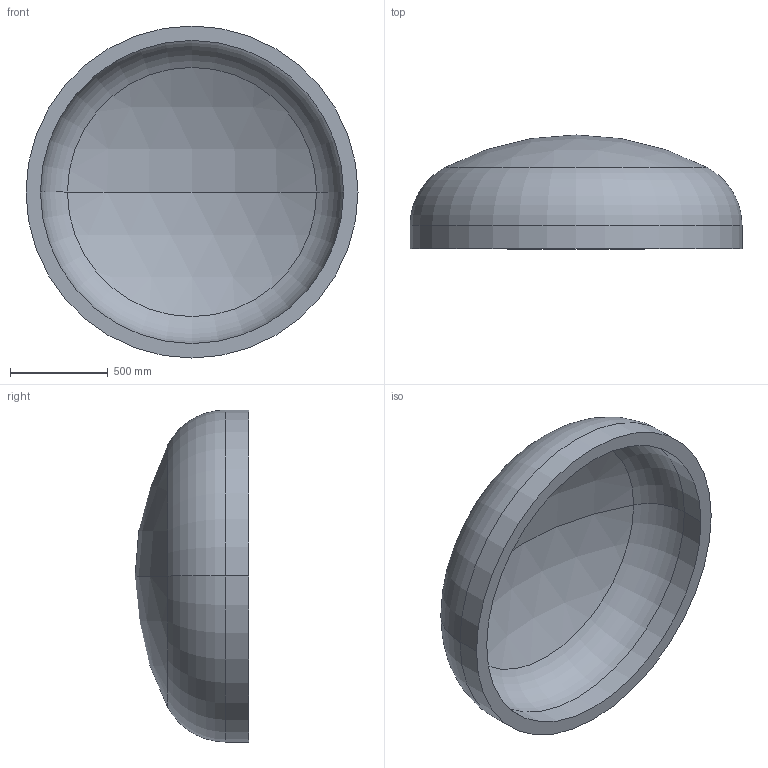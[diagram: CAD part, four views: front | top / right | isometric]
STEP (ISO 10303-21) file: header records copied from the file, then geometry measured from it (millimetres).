
FILE_DESCRIPTION (( 'STEP AP203' ), '1' );
FILE_NAME ('DIN 28013 Korbbogenform_-_Boden DIN 28013 - 1700 x 120 - I - s=74.step', '2016-07-01T12:00:58', ( '' ), ( '' ), 'SwSTEP 2.0', 'SolidWorks 2013', '' );
FILE_SCHEMA (( 'CONFIG_CONTROL_DESIGN' ));
Length unit declared in the file: millimetre
Products named in the file (1): DIN 28013 Korbbogenform_-_Boden DIN 28013 - 1700 x 120 - I - s=74
Bounding box: 1700 x 582.54 x 1700 mm (x, y, z)
Volume: 264961678.8 mm3; surface area: 7550602.4 mm2
Topology: 1 solids, 1 shells, 13 faces, 24 edges, 14 vertices
Faces by surface type: torus 4, cylinder 4, sphere 4, plane 1
Entity records: 407 total; most frequent: DIRECTION 72, CARTESIAN_POINT 52, ORIENTED_EDGE 48, AXIS2_PLACEMENT_3D 34, EDGE_CURVE 24, CIRCLE 20, VERTEX_POINT 14, EDGE_LOOP 14
